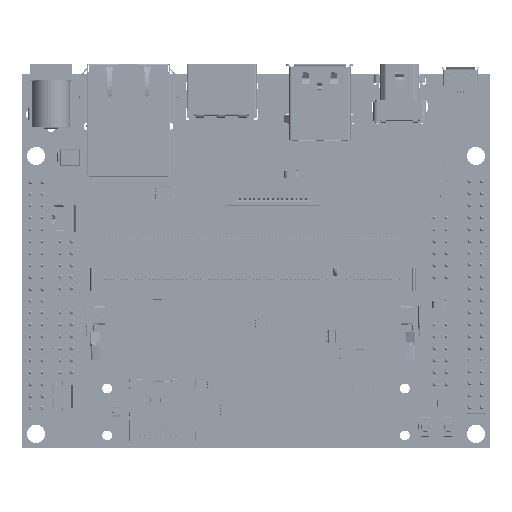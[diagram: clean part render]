
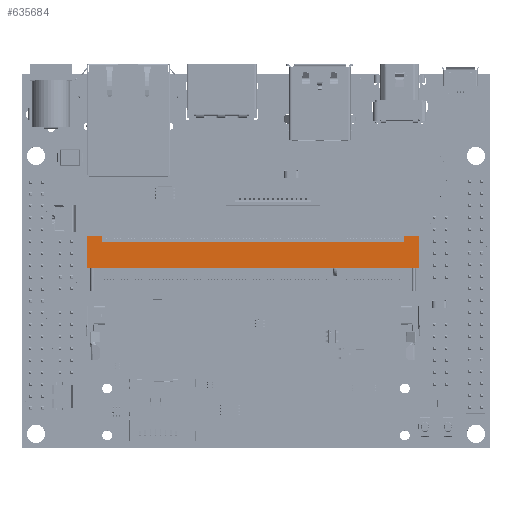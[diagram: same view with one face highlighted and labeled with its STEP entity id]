
A CAD part, top view. The second image highlights one B-rep face of the part: STEP entity #635684.
In plain terms, the highlighted planar face has unit normal (0, 0, 1).
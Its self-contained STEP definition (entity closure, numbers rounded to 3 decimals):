
#635684 = ADVANCED_FACE('',(#635685),#635815,.T.);
#635685 = FACE_BOUND('',#635686,.T.);
#635686 = EDGE_LOOP('',(#635687,#635697,#635705,#635713,#635721,#635729,
    #635737,#635745,#635753,#635761,#635769,#635777,#635785,#635793,
    #635801,#635809));
#635687 = ORIENTED_EDGE('',*,*,#635688,.F.);
#635688 = EDGE_CURVE('',#635689,#635691,#635693,.T.);
#635689 = VERTEX_POINT('',#635690);
#635690 = CARTESIAN_POINT('',(14.709,38.51,
    5.28));
#635691 = VERTEX_POINT('',#635692);
#635692 = CARTESIAN_POINT('',(13.85,38.51,
    5.28));
#635693 = LINE('',#635694,#635695);
#635694 = CARTESIAN_POINT('',(13.85,38.51,
    5.28));
#635695 = VECTOR('',#635696,1.);
#635696 = DIRECTION('',(-1.,0.,0.));
#635697 = ORIENTED_EDGE('',*,*,#635698,.T.);
#635698 = EDGE_CURVE('',#635689,#635699,#635701,.T.);
#635699 = VERTEX_POINT('',#635700);
#635700 = CARTESIAN_POINT('',(15.29,38.51,
    5.28));
#635701 = LINE('',#635702,#635703);
#635702 = CARTESIAN_POINT('',(13.85,38.51,
    5.28));
#635703 = VECTOR('',#635704,1.);
#635704 = DIRECTION('',(1.,0.,0.));
#635705 = ORIENTED_EDGE('',*,*,#635706,.T.);
#635706 = EDGE_CURVE('',#635699,#635707,#635709,.T.);
#635707 = VERTEX_POINT('',#635708);
#635708 = CARTESIAN_POINT('',(66.85,38.51,
    5.28));
#635709 = LINE('',#635710,#635711);
#635710 = CARTESIAN_POINT('',(13.85,38.51,
    5.28));
#635711 = VECTOR('',#635712,1.);
#635712 = DIRECTION('',(1.,0.,0.));
#635713 = ORIENTED_EDGE('',*,*,#635714,.T.);
#635714 = EDGE_CURVE('',#635707,#635715,#635717,.T.);
#635715 = VERTEX_POINT('',#635716);
#635716 = CARTESIAN_POINT('',(66.85,38.46,
    5.28));
#635717 = LINE('',#635718,#635719);
#635718 = CARTESIAN_POINT('',(66.85,45.36,
    5.28));
#635719 = VECTOR('',#635720,1.);
#635720 = DIRECTION('',(0.,-1.,0.));
#635721 = ORIENTED_EDGE('',*,*,#635722,.F.);
#635722 = EDGE_CURVE('',#635723,#635715,#635725,.T.);
#635723 = VERTEX_POINT('',#635724);
#635724 = CARTESIAN_POINT('',(66.95,38.46,
    5.28));
#635725 = LINE('',#635726,#635727);
#635726 = CARTESIAN_POINT('',(66.45,38.46,
    5.28));
#635727 = VECTOR('',#635728,1.);
#635728 = DIRECTION('',(-1.,0.,0.));
#635729 = ORIENTED_EDGE('',*,*,#635730,.T.);
#635730 = EDGE_CURVE('',#635723,#635731,#635733,.T.);
#635731 = VERTEX_POINT('',#635732);
#635732 = CARTESIAN_POINT('',(66.95,38.51,
    5.28));
#635733 = LINE('',#635734,#635735);
#635734 = CARTESIAN_POINT('',(66.95,45.36,
    5.28));
#635735 = VECTOR('',#635736,1.);
#635736 = DIRECTION('',(0.,1.,0.));
#635737 = ORIENTED_EDGE('',*,*,#635738,.T.);
#635738 = EDGE_CURVE('',#635731,#635739,#635741,.T.);
#635739 = VERTEX_POINT('',#635740);
#635740 = CARTESIAN_POINT('',(83.409,38.51,
    5.28));
#635741 = LINE('',#635742,#635743);
#635742 = CARTESIAN_POINT('',(13.85,38.51,
    5.28));
#635743 = VECTOR('',#635744,1.);
#635744 = DIRECTION('',(1.,0.,0.));
#635745 = ORIENTED_EDGE('',*,*,#635746,.T.);
#635746 = EDGE_CURVE('',#635739,#635747,#635749,.T.);
#635747 = VERTEX_POINT('',#635748);
#635748 = CARTESIAN_POINT('',(83.99,38.51,
    5.28));
#635749 = LINE('',#635750,#635751);
#635750 = CARTESIAN_POINT('',(13.85,38.51,
    5.28));
#635751 = VECTOR('',#635752,1.);
#635752 = DIRECTION('',(1.,0.,0.));
#635753 = ORIENTED_EDGE('',*,*,#635754,.F.);
#635754 = EDGE_CURVE('',#635755,#635747,#635757,.T.);
#635755 = VERTEX_POINT('',#635756);
#635756 = CARTESIAN_POINT('',(84.85,38.51,
    5.28));
#635757 = LINE('',#635758,#635759);
#635758 = CARTESIAN_POINT('',(13.85,38.51,
    5.28));
#635759 = VECTOR('',#635760,1.);
#635760 = DIRECTION('',(-1.,0.,0.));
#635761 = ORIENTED_EDGE('',*,*,#635762,.T.);
#635762 = EDGE_CURVE('',#635755,#635763,#635765,.T.);
#635763 = VERTEX_POINT('',#635764);
#635764 = CARTESIAN_POINT('',(84.85,45.36,
    5.28));
#635765 = LINE('',#635766,#635767);
#635766 = CARTESIAN_POINT('',(84.85,45.36,
    5.28));
#635767 = VECTOR('',#635768,1.);
#635768 = DIRECTION('',(0.,1.,0.));
#635769 = ORIENTED_EDGE('',*,*,#635770,.T.);
#635770 = EDGE_CURVE('',#635763,#635771,#635773,.T.);
#635771 = VERTEX_POINT('',#635772);
#635772 = CARTESIAN_POINT('',(81.7,45.36,
    5.28));
#635773 = LINE('',#635774,#635775);
#635774 = CARTESIAN_POINT('',(13.85,45.36,
    5.28));
#635775 = VECTOR('',#635776,1.);
#635776 = DIRECTION('',(-1.,0.,0.));
#635777 = ORIENTED_EDGE('',*,*,#635778,.T.);
#635778 = EDGE_CURVE('',#635771,#635779,#635781,.T.);
#635779 = VERTEX_POINT('',#635780);
#635780 = CARTESIAN_POINT('',(81.7,44.06,
    5.28));
#635781 = LINE('',#635782,#635783);
#635782 = CARTESIAN_POINT('',(81.7,44.06,
    5.28));
#635783 = VECTOR('',#635784,1.);
#635784 = DIRECTION('',(0.,-1.,0.));
#635785 = ORIENTED_EDGE('',*,*,#635786,.T.);
#635786 = EDGE_CURVE('',#635779,#635787,#635789,.T.);
#635787 = VERTEX_POINT('',#635788);
#635788 = CARTESIAN_POINT('',(17.,44.06,
    5.28));
#635789 = LINE('',#635790,#635791);
#635790 = CARTESIAN_POINT('',(13.85,44.06,
    5.28));
#635791 = VECTOR('',#635792,1.);
#635792 = DIRECTION('',(-1.,0.,0.));
#635793 = ORIENTED_EDGE('',*,*,#635794,.T.);
#635794 = EDGE_CURVE('',#635787,#635795,#635797,.T.);
#635795 = VERTEX_POINT('',#635796);
#635796 = CARTESIAN_POINT('',(17.,45.36,
    5.28));
#635797 = LINE('',#635798,#635799);
#635798 = CARTESIAN_POINT('',(17.,45.36,
    5.28));
#635799 = VECTOR('',#635800,1.);
#635800 = DIRECTION('',(0.,1.,0.));
#635801 = ORIENTED_EDGE('',*,*,#635802,.T.);
#635802 = EDGE_CURVE('',#635795,#635803,#635805,.T.);
#635803 = VERTEX_POINT('',#635804);
#635804 = CARTESIAN_POINT('',(13.85,45.36,
    5.28));
#635805 = LINE('',#635806,#635807);
#635806 = CARTESIAN_POINT('',(13.85,45.36,
    5.28));
#635807 = VECTOR('',#635808,1.);
#635808 = DIRECTION('',(-1.,0.,0.));
#635809 = ORIENTED_EDGE('',*,*,#635810,.T.);
#635810 = EDGE_CURVE('',#635803,#635691,#635811,.T.);
#635811 = LINE('',#635812,#635813);
#635812 = CARTESIAN_POINT('',(13.85,45.36,
    5.28));
#635813 = VECTOR('',#635814,1.);
#635814 = DIRECTION('',(0.,-1.,0.));
#635815 = PLANE('',#635816);
#635816 = AXIS2_PLACEMENT_3D('',#635817,#635818,#635819);
#635817 = CARTESIAN_POINT('',(13.85,45.36,
    5.28));
#635818 = DIRECTION('',(0.,0.,1.));
#635819 = DIRECTION('',(0.,-1.,0.));
